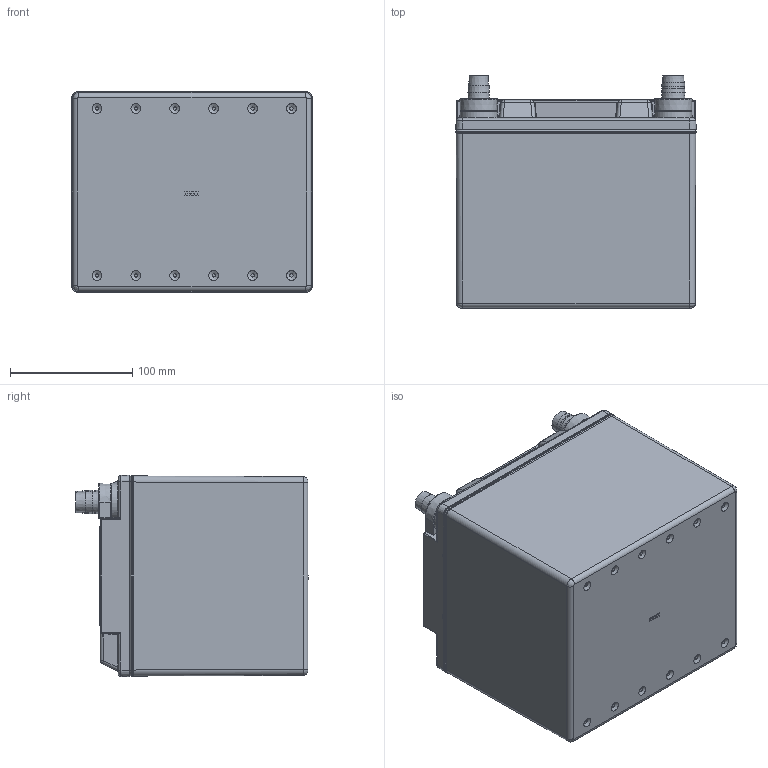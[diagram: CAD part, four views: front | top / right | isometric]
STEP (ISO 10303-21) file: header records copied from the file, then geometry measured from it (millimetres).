
FILE_DESCRIPTION (( 'STEP AP203' ), '1' );
FILE_NAME ('ODS-AGM42LA.STEP', '2024-03-25T15:50:15', ( '' ), ( '' ), 'SwSTEP 2.0', 'SolidWorks 2022', '' );
FILE_SCHEMA (( 'CONFIG_CONTROL_DESIGN' ));
Products named in the file (1): ODS-AGM42LA
Bounding box: 196.75 x 189.79 x 164.97 mm (x, y, z)
Volume: 998157.4 mm3; surface area: 743731.2 mm2
Topology: 17 solids, 17 shells, 3956 faces, 9783 edges, 5618 vertices
Faces by surface type: plane 1284, cylinder 1233, bspline 755, cone 334, torus 243, sphere 107
Full cylindrical faces by diameter (mm): 1.575 x5, 3.81 x1, 5.994 x2, 6.35 x7, 6.477 x2, 7.62 x1, 9.398 x5, 10 x2, 10.084 x2, 10.668 x2, 12.7 x8, 13.208 x4, 17.78 x2, 19.05 x4, 22.123 x1, 25.273 x2
Entity records: 154004 total; most frequent: CARTESIAN_POINT 72229, ORIENTED_EDGE 18260, DIRECTION 15087, EDGE_CURVE 9130, VERTEX_POINT 5546, AXIS2_PLACEMENT_3D 5371, LINE 4345, VECTOR 4345
